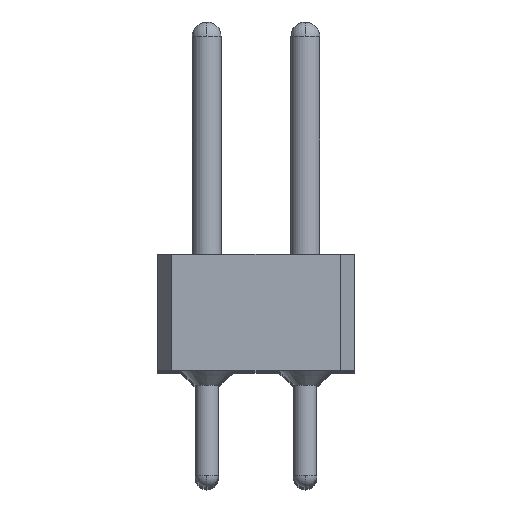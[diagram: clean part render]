
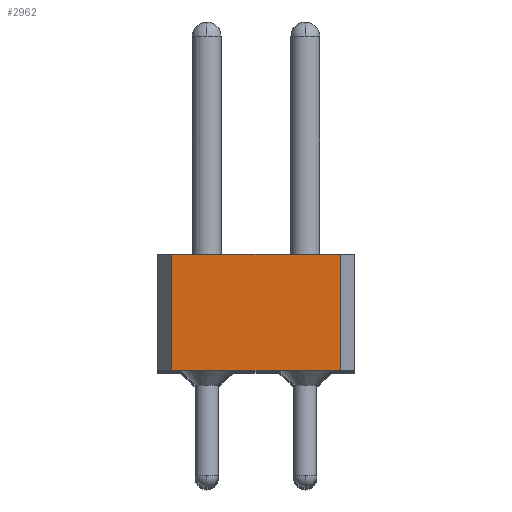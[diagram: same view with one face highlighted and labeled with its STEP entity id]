
A CAD part, top view. The second image highlights one B-rep face of the part: STEP entity #2962.
In plain terms, the highlighted planar face has unit normal (0, 0, 1).
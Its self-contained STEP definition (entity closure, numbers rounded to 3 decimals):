
#2016=FACE_OUTER_BOUND('',#6468,.T.);
#2962=ADVANCED_FACE('',(#2016),#3322,.F.);
#3322=PLANE('',#16539);
#3997=LINE('',#26185,#4701);
#4009=LINE('',#26217,#4713);
#4016=LINE('',#26232,#4720);
#4017=LINE('',#26234,#4721);
#4701=VECTOR('',#20976,1.);
#4713=VECTOR('',#20996,1.);
#4720=VECTOR('',#21011,1.);
#4721=VECTOR('',#21014,1.);
#6468=EDGE_LOOP('',(#10231,#10232,#10233,#10234));
#10231=ORIENTED_EDGE('',*,*,#13600,.T.);
#10232=ORIENTED_EDGE('',*,*,#13609,.F.);
#10233=ORIENTED_EDGE('',*,*,#13585,.F.);
#10234=ORIENTED_EDGE('',*,*,#13608,.T.);
#11673=VERTEX_POINT('',#26186);
#11674=VERTEX_POINT('',#26187);
#11688=VERTEX_POINT('',#26216);
#11689=VERTEX_POINT('',#26218);
#13585=EDGE_CURVE('',#11673,#11674,#3997,.T.);
#13600=EDGE_CURVE('',#11689,#11688,#4009,.T.);
#13608=EDGE_CURVE('',#11673,#11689,#4016,.T.);
#13609=EDGE_CURVE('',#11674,#11688,#4017,.T.);
#16539=AXIS2_PLACEMENT_3D('',#26235,#21015,#21016);
#20976=DIRECTION('',(1.,0.,0.));
#20996=DIRECTION('',(1.,0.,0.));
#21011=DIRECTION('',(0.,-1.,0.));
#21014=DIRECTION('',(0.,-1.,0.));
#21015=DIRECTION('',(0.,0.,-1.));
#21016=DIRECTION('',(0.,1.,0.));
#26185=CARTESIAN_POINT('',(-1.27,4.9,49.53));
#26186=CARTESIAN_POINT('',(-0.9,4.9,49.53));
#26187=CARTESIAN_POINT('',(3.44,4.9,49.53));
#26216=CARTESIAN_POINT('',(3.44,1.9,49.53));
#26217=CARTESIAN_POINT('',(3.81,1.9,49.53));
#26218=CARTESIAN_POINT('',(-0.9,1.9,49.53));
#26232=CARTESIAN_POINT('',(-0.9,3.8,49.53));
#26234=CARTESIAN_POINT('',(3.44,3.8,49.53));
#26235=CARTESIAN_POINT('',(1.64,3.8,49.53));
